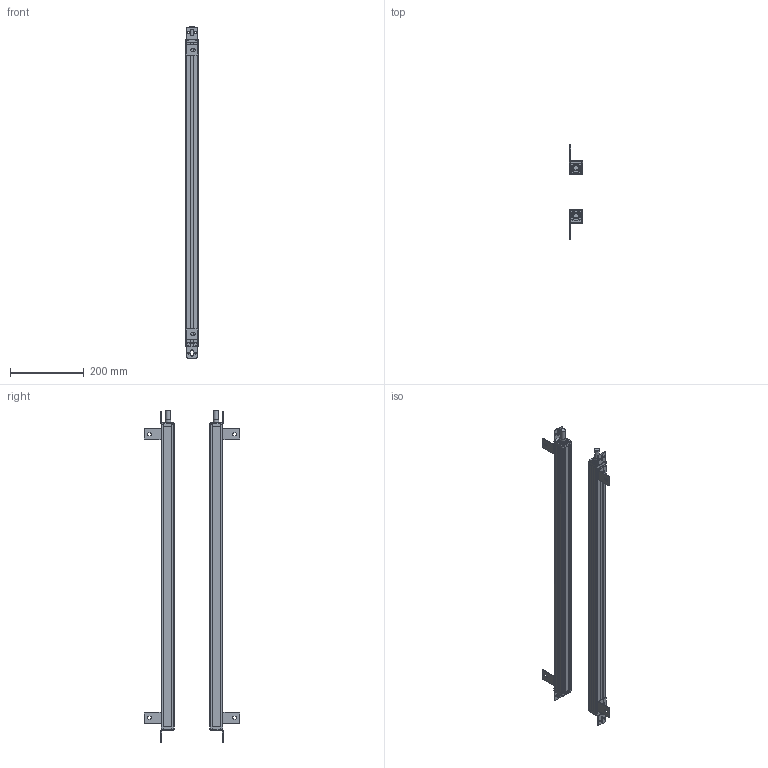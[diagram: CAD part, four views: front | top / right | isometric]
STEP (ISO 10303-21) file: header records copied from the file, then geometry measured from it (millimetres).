
FILE_DESCRIPTION(/* description */ (''),/* implementation_level */ '2;1');
FILE_NAME(/* name */ '2040_35X35.stp',/* time_stamp */ '2023-09-18T15:54:42+08:00',/* author */ (''),/* organization */ (''),/* preprocessor_version */ 'ST-DEVELOPER v16.7',/* originating_system */ 'SIEMENS PLM Software NX 12.0',/* authorisation */ '');
FILE_SCHEMA (('AP203_CONFIGURATION_CONTROLLED_3D_DESIGN_OF_MECHANICAL_PARTS_AND_ASSEMBLIES_MIM_LF { 1 0 10303 403 2 1 2}'));
Length unit declared in the file: millimetre
Products named in the file (1): 2040_35X35_stp
Bounding box: 35.41 x 258.01 x 901.6 mm (x, y, z)
Volume: 825115.2 mm3; surface area: 624041.8 mm2
Topology: 28 solids, 28 shells, 1182 faces, 3360 edges, 2260 vertices
Faces by surface type: plane 658, cylinder 464, cone 60
Full cylindrical faces by diameter (mm): 3.2 x8, 6 x24, 13 x2, 14.4 x2, 15 x2
Entity records: 39055 total; most frequent: DIRECTION 6832, CARTESIAN_POINT 6745, ORIENTED_EDGE 6612, EDGE_CURVE 3306, AXIS2_PLACEMENT_3D 2347, VERTEX_POINT 2244, LINE 2138, VECTOR 2138
